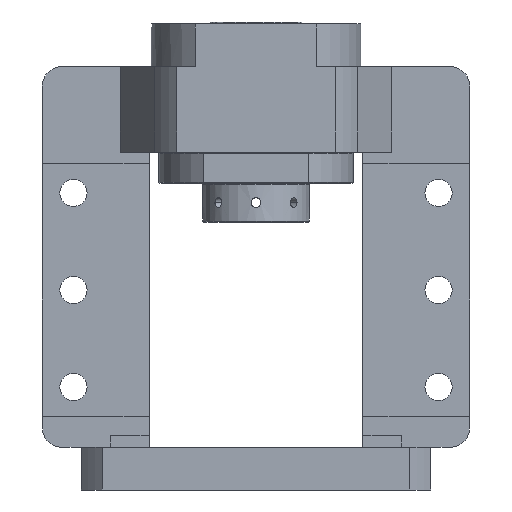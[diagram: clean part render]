
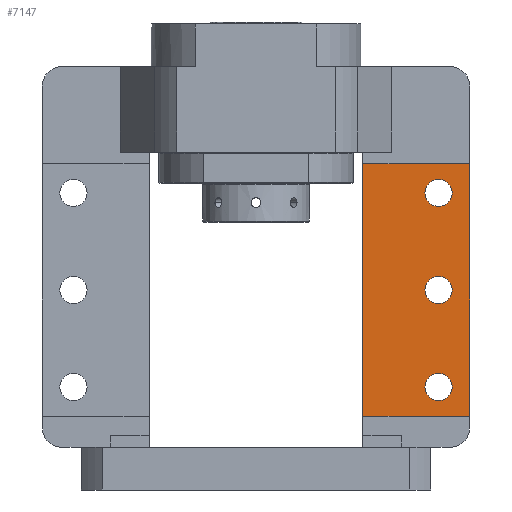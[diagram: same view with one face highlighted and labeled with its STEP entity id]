
A CAD part, front view. The second image highlights one B-rep face of the part: STEP entity #7147.
In plain terms, the highlighted planar face has unit normal (0, -1, 0).
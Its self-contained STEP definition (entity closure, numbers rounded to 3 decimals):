
#6 = AXIS2_PLACEMENT_3D ( 'NONE', #7006, #21974, #9200 ) ;
#562 = EDGE_CURVE ( 'NONE', #11240, #27046, #1505, .T. ) ;
#737 = ORIENTED_EDGE ( 'NONE', *, *, #23977, .F. ) ;
#1018 = CARTESIAN_POINT ( 'NONE',  ( 94., 0., 53. ) ) ;
#1048 = CARTESIAN_POINT ( 'NONE',  ( 55., 0., 168. ) ) ;
#1505 = LINE ( 'NONE', #23564, #23044 ) ;
#2216 = VERTEX_POINT ( 'NONE', #16451 ) ;
#3149 = CARTESIAN_POINT ( 'NONE',  ( 110., 0., 168. ) ) ;
#3242 = DIRECTION ( 'NONE',  ( 0., 0., -1. ) ) ;
#3854 = VERTEX_POINT ( 'NONE', #13134 ) ;
#4219 = ORIENTED_EDGE ( 'NONE', *, *, #23383, .F. ) ;
#4964 = CARTESIAN_POINT ( 'NONE',  ( 94., 0., 46. ) ) ;
#5031 = DIRECTION ( 'NONE',  ( 0., -1., 0. ) ) ;
#5308 = DIRECTION ( 'NONE',  ( 0., -1., 0. ) ) ;
#5492 = LINE ( 'NONE', #8181, #21924 ) ;
#5523 = CARTESIAN_POINT ( 'NONE',  ( 110., 0., 168. ) ) ;
#5636 = CARTESIAN_POINT ( 'NONE',  ( 94., 0., 103. ) ) ;
#5884 = CARTESIAN_POINT ( 'NONE',  ( 94., 0., 60. ) ) ;
#6141 = CIRCLE ( 'NONE', #6, 7. ) ;
#6737 = CIRCLE ( 'NONE', #13970, 7. ) ;
#6803 = CARTESIAN_POINT ( 'NONE',  ( 94., 0., 110. ) ) ;
#7006 = CARTESIAN_POINT ( 'NONE',  ( 94., 0., 153. ) ) ;
#7147 = ADVANCED_FACE ( 'NONE', ( #25876, #20922, #20247, #25206 ), #13651, .T. ) ;
#7163 = VECTOR ( 'NONE', #20511, 1000. ) ;
#7437 = LINE ( 'NONE', #20976, #16822 ) ;
#7820 = DIRECTION ( 'NONE',  ( 0., 0., -1. ) ) ;
#7855 = CIRCLE ( 'NONE', #19120, 7. ) ;
#7912 = VERTEX_POINT ( 'NONE', #3149 ) ;
#7945 = EDGE_CURVE ( 'NONE', #10115, #13096, #7855, .T. ) ;
#8101 = DIRECTION ( 'NONE',  ( 0., -1., 0. ) ) ;
#8181 = CARTESIAN_POINT ( 'NONE',  ( 110., 0., 38. ) ) ;
#8409 = ORIENTED_EDGE ( 'NONE', *, *, #15282, .T. ) ;
#8472 = CARTESIAN_POINT ( 'NONE',  ( 55., 0., 38. ) ) ;
#8829 = ORIENTED_EDGE ( 'NONE', *, *, #13733, .T. ) ;
#9200 = DIRECTION ( 'NONE',  ( 0., 0., -1. ) ) ;
#10115 = VERTEX_POINT ( 'NONE', #5884 ) ;
#10626 = VERTEX_POINT ( 'NONE', #13990 ) ;
#10651 = EDGE_CURVE ( 'NONE', #10626, #3854, #6141, .T. ) ;
#11240 = VERTEX_POINT ( 'NONE', #1048 ) ;
#11909 = CARTESIAN_POINT ( 'NONE',  ( 94., 0., 103. ) ) ;
#12534 = AXIS2_PLACEMENT_3D ( 'NONE', #22009, #5031, #20033 ) ;
#12911 = LINE ( 'NONE', #5523, #7163 ) ;
#13085 = DIRECTION ( 'NONE',  ( 0., 0., -1. ) ) ;
#13096 = VERTEX_POINT ( 'NONE', #4964 ) ;
#13134 = CARTESIAN_POINT ( 'NONE',  ( 94., 0., 146. ) ) ;
#13466 = CIRCLE ( 'NONE', #15229, 7. ) ;
#13530 = EDGE_LOOP ( 'NONE', ( #4219, #19202 ) ) ;
#13651 = PLANE ( 'NONE',  #12534 ) ;
#13656 = ORIENTED_EDGE ( 'NONE', *, *, #10651, .F. ) ;
#13733 = EDGE_CURVE ( 'NONE', #27046, #2216, #5492, .T. ) ;
#13970 = AXIS2_PLACEMENT_3D ( 'NONE', #11909, #26748, #14064 ) ;
#13990 = CARTESIAN_POINT ( 'NONE',  ( 94., 0., 160. ) ) ;
#14064 = DIRECTION ( 'NONE',  ( 0., 0., -1. ) ) ;
#14662 = DIRECTION ( 'NONE',  ( 0., 0., -1. ) ) ;
#14778 = EDGE_LOOP ( 'NONE', ( #17637, #8409, #14981, #8829 ) ) ;
#14981 = ORIENTED_EDGE ( 'NONE', *, *, #562, .T. ) ;
#15229 = AXIS2_PLACEMENT_3D ( 'NONE', #5636, #20631, #7820 ) ;
#15282 = EDGE_CURVE ( 'NONE', #7912, #11240, #12911, .T. ) ;
#16161 = DIRECTION ( 'NONE',  ( 0., -1., 0. ) ) ;
#16451 = CARTESIAN_POINT ( 'NONE',  ( 110., 0., 38. ) ) ;
#16799 = DIRECTION ( 'NONE',  ( 1., 0., 0. ) ) ;
#16822 = VECTOR ( 'NONE', #14662, 1000. ) ;
#17637 = ORIENTED_EDGE ( 'NONE', *, *, #18505, .F. ) ;
#18174 = CARTESIAN_POINT ( 'NONE',  ( 94., 0., 153. ) ) ;
#18505 = EDGE_CURVE ( 'NONE', #7912, #2216, #7437, .T. ) ;
#19120 = AXIS2_PLACEMENT_3D ( 'NONE', #1018, #16161, #3242 ) ;
#19202 = ORIENTED_EDGE ( 'NONE', *, *, #7945, .F. ) ;
#20033 = DIRECTION ( 'NONE',  ( 0., 0., -1. ) ) ;
#20247 = FACE_BOUND ( 'NONE', #26384, .T. ) ;
#20305 = DIRECTION ( 'NONE',  ( 0., 0., -1. ) ) ;
#20378 = VERTEX_POINT ( 'NONE', #24029 ) ;
#20511 = DIRECTION ( 'NONE',  ( -1., 0., 0. ) ) ;
#20631 = DIRECTION ( 'NONE',  ( 0., -1., 0. ) ) ;
#20708 = VERTEX_POINT ( 'NONE', #6803 ) ;
#20904 = CARTESIAN_POINT ( 'NONE',  ( 94., 0., 53. ) ) ;
#20922 = FACE_BOUND ( 'NONE', #13530, .T. ) ;
#20976 = CARTESIAN_POINT ( 'NONE',  ( 110., 0., 225. ) ) ;
#21341 = EDGE_CURVE ( 'NONE', #20708, #20378, #6737, .T. ) ;
#21869 = ORIENTED_EDGE ( 'NONE', *, *, #23187, .F. ) ;
#21924 = VECTOR ( 'NONE', #16799, 1000. ) ;
#21974 = DIRECTION ( 'NONE',  ( 0., -1., 0. ) ) ;
#22009 = CARTESIAN_POINT ( 'NONE',  ( 110., 0., 225. ) ) ;
#22745 = CIRCLE ( 'NONE', #25156, 7. ) ;
#23035 = DIRECTION ( 'NONE',  ( 0., 0., -1. ) ) ;
#23044 = VECTOR ( 'NONE', #13085, 1000. ) ;
#23187 = EDGE_CURVE ( 'NONE', #20378, #20708, #13466, .T. ) ;
#23383 = EDGE_CURVE ( 'NONE', #13096, #10115, #22745, .T. ) ;
#23564 = CARTESIAN_POINT ( 'NONE',  ( 55., 0., 225. ) ) ;
#23726 = CIRCLE ( 'NONE', #27472, 7. ) ;
#23977 = EDGE_CURVE ( 'NONE', #3854, #10626, #23726, .T. ) ;
#24029 = CARTESIAN_POINT ( 'NONE',  ( 94., 0., 96. ) ) ;
#24363 = ORIENTED_EDGE ( 'NONE', *, *, #21341, .F. ) ;
#25156 = AXIS2_PLACEMENT_3D ( 'NONE', #20904, #8101, #23035 ) ;
#25206 = FACE_OUTER_BOUND ( 'NONE', #14778, .T. ) ;
#25876 = FACE_BOUND ( 'NONE', #27692, .T. ) ;
#26384 = EDGE_LOOP ( 'NONE', ( #21869, #24363 ) ) ;
#26748 = DIRECTION ( 'NONE',  ( 0., -1., 0. ) ) ;
#27046 = VERTEX_POINT ( 'NONE', #8472 ) ;
#27472 = AXIS2_PLACEMENT_3D ( 'NONE', #18174, #5308, #20305 ) ;
#27692 = EDGE_LOOP ( 'NONE', ( #737, #13656 ) ) ;
